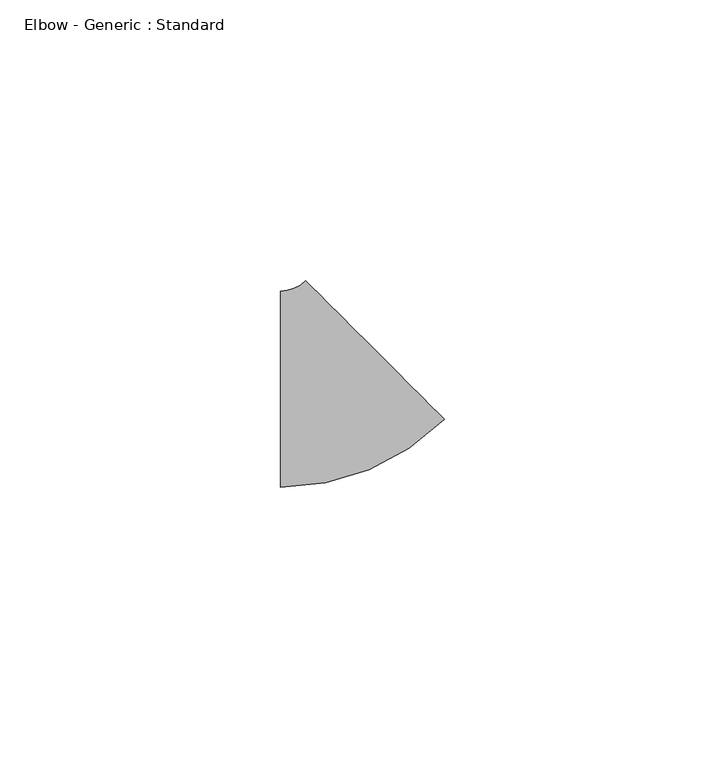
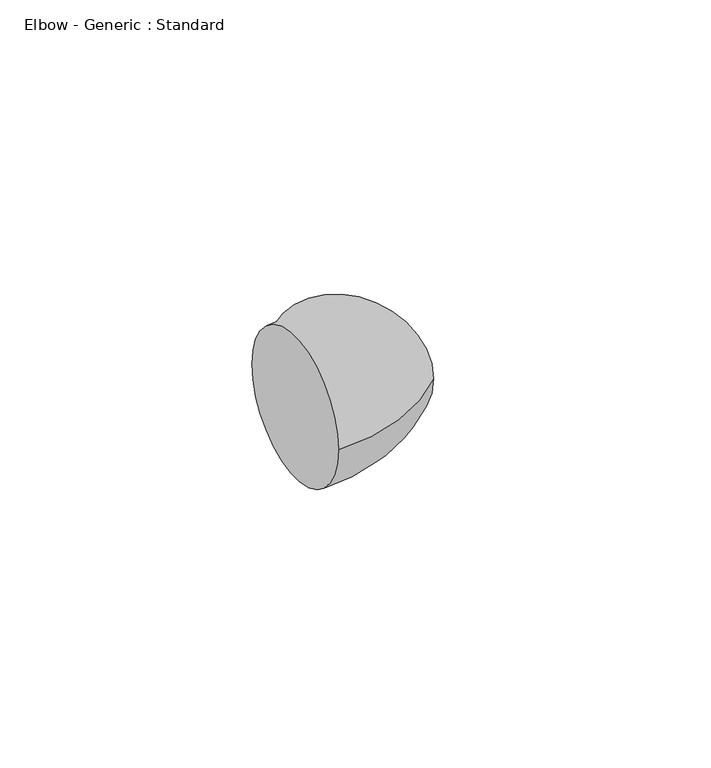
"""IFC4 building model written with IfcOpenShell, lengths in millimetres: pipe fitting geometry, Elbow - Generic : Standard."""

from ifc_helpers import new_model, si_unit, point, frame, origin, place, context, project, spatial, circle_curve, ellipse_curve, trimmed, source, transform, mapped, element, save
from ifc_brep_helpers import plane_surface, revolved_surface, advanced_brep


def elbow_generic_standard_39713109(model_context):
    return source(origin(), model_context, "Body", "AdvancedBrep", [
        advanced_brep(
        [(-9.8634605, -17.4625, 0.0), (-9.8634605, 17.4625, 0.0), (19.3223719, -5.3733324, 0.0), (-5.3733324, 19.3223719, 0.0)],
        [
            (0, 1, circle_curve(frame((-9.8634605, 0.0, 0.0), z_axis=(-1.0, 0.0, 0.0), x_axis=(0.0, 1.0, 0.0)), 17.4625)),
            (1, 0, circle_curve(frame((-9.8634605, 0.0, 0.0), z_axis=(-1.0, 0.0, 0.0), x_axis=(0.0, 1.0, 0.0)), 17.4625)),
            (2, 3, circle_curve(frame((6.9745198, 6.9745198, 0.0), z_axis=(0.7071067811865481, 0.7071067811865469, 0.0), x_axis=(-0.7071067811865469, 0.7071067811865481, 0.0)), 17.4625)),
            (3, 2, circle_curve(frame((6.9745198, 6.9745198, 0.0), z_axis=(0.7071067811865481, 0.7071067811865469, 0.0), x_axis=(-0.7071067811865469, 0.7071067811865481, 0.0)), 17.4625)),
            (3, 1, circle_curve(frame((-9.8634605, 23.8125, 0.0), z_axis=(0.0, 0.0, -1.0), x_axis=(0.0, -1.0, 0.0)), 6.35)),
            (0, 2, circle_curve(frame((-9.8634605, 23.8125, 0.0), z_axis=(0.0, 0.0, 1.0), x_axis=(0.0, -1.0, 0.0)), 41.275)),
        ],
        [
            plane_surface(frame((-9.8634605, 0.0, 0.0), z_axis=(-1.0, 0.0, 0.0), x_axis=(0.0, 0.0, 1.0))),
            plane_surface(frame((6.9745198, 6.9745198, 0.0), z_axis=(0.7071067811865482, 0.707106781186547, 0.0), x_axis=(0.0, 0.0, 1.0))),
            revolved_surface(trimmed(ellipse_curve(frame((-9.8634605, 0.0, 0.0), z_axis=(-1.0, 0.0, 0.0), x_axis=(0.0, 1.0, 0.0)), 17.4625, 17.4625), [point((-9.8634605, -17.4625, 0.0))], [point((-9.8634605, 17.4625, 0.0))], True, "CARTESIAN"), (-9.8634605, 23.8125, 0.0), (0.0, 0.0, 1.0)),
            revolved_surface(trimmed(ellipse_curve(frame((-9.8634605, 0.0, 0.0), z_axis=(-1.0, 0.0, 0.0), x_axis=(0.0, 1.0, 0.0)), 17.4625, 17.4625), [point((-9.8634605, 17.4625, 0.0))], [point((-9.8634605, -17.4625, 0.0))], True, "CARTESIAN"), (-9.8634605, 23.8125, 0.0), (0.0, 0.0, 1.0)),
        ],
        [
            (0, [[1, 2]]),
            (1, [[3, 4]]),
            (2, [[5, -1, 6, -4]]),
            (3, [[-6, -2, -5, -3]]),
        ],
    ),
    ])


if __name__ == "__main__":
    model = new_model("IFC4")
    model_context = context("Model", 3, world=origin())
    ifc_project = project(units=[si_unit("LENGTHUNIT", "METRE", prefix="MILLI")], contexts=[model_context])
    site = spatial("IfcSite", under=ifc_project)
    building = spatial("IfcBuilding", under=site)
    placement = place(None, origin())
    elbow_generic_standard_shape = elbow_generic_standard_39713109(model_context)
    element("IfcPipeFitting", 1, ObjectType="Elbow - Generic : Standard", at=placement, inside=building, context=model_context, shape_type="MappedRepresentation", body=[
        mapped(elbow_generic_standard_shape, transform((0.0, 0.0, 0.0), x_axis=(1.0, 0.0, 0.0), y_axis=(0.0, 1.0, 0.0), z_axis=(0.0, 0.0, 1.0))),
    ])
    save(model, "model.ifc")
